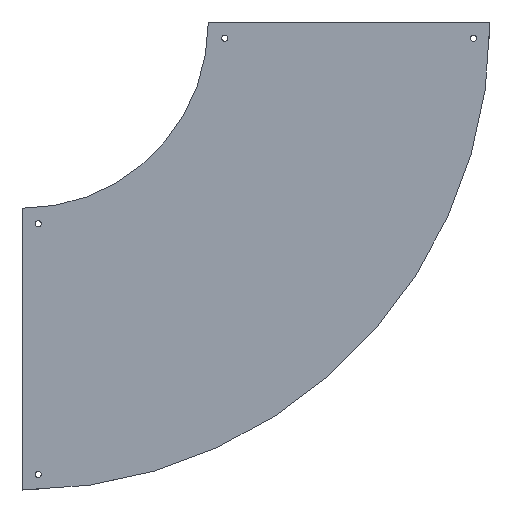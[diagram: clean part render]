
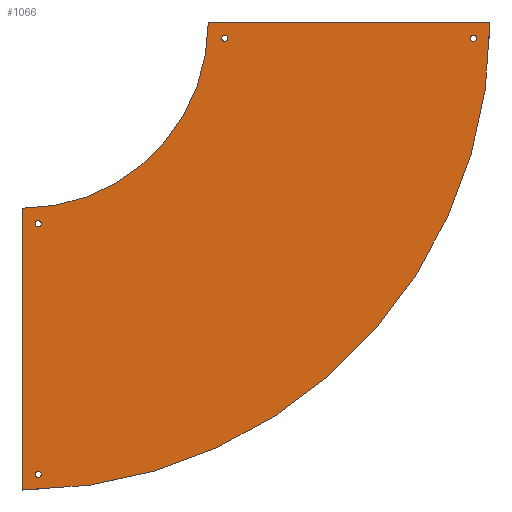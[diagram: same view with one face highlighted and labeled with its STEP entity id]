
A CAD part, top view. The second image highlights one B-rep face of the part: STEP entity #1066.
In plain terms, the highlighted planar face has unit normal (0, 0, 1).
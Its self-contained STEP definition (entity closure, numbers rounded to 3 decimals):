
#49=FACE_BOUND('',#205,.T.);
#50=FACE_BOUND('',#206,.T.);
#51=FACE_BOUND('',#207,.T.);
#52=FACE_BOUND('',#208,.T.);
#63=CIRCLE('',#1156,298.5);
#64=CIRCLE('',#1157,751.5);
#65=CIRCLE('',#1158,5.);
#66=CIRCLE('',#1159,5.);
#67=CIRCLE('',#1160,5.);
#68=CIRCLE('',#1161,5.);
#69=CIRCLE('',#1162,5.);
#70=CIRCLE('',#1163,5.);
#71=CIRCLE('',#1164,5.);
#72=CIRCLE('',#1165,5.);
#134=FACE_OUTER_BOUND('',#204,.T.);
#204=EDGE_LOOP('',(#826,#827,#828,#829,#830,#831,#832,#833));
#205=EDGE_LOOP('',(#834,#835));
#206=EDGE_LOOP('',(#836,#837));
#207=EDGE_LOOP('',(#838,#839));
#208=EDGE_LOOP('',(#840,#841));
#297=LINE('',#1670,#405);
#298=LINE('',#1673,#406);
#306=LINE('',#1708,#414);
#307=LINE('',#1713,#415);
#308=LINE('',#1715,#416);
#309=LINE('',#1717,#417);
#405=VECTOR('',#1333,304.8);
#406=VECTOR('',#1336,304.8);
#414=VECTOR('',#1368,304.8);
#415=VECTOR('',#1373,304.8);
#416=VECTOR('',#1374,304.8);
#417=VECTOR('',#1375,304.8);
#494=VERTEX_POINT('',#1663);
#497=VERTEX_POINT('',#1668);
#498=VERTEX_POINT('',#1672);
#513=VERTEX_POINT('',#1706);
#514=VERTEX_POINT('',#1710);
#515=VERTEX_POINT('',#1712);
#516=VERTEX_POINT('',#1714);
#517=VERTEX_POINT('',#1716);
#518=VERTEX_POINT('',#1719);
#519=VERTEX_POINT('',#1720);
#520=VERTEX_POINT('',#1723);
#521=VERTEX_POINT('',#1724);
#522=VERTEX_POINT('',#1727);
#523=VERTEX_POINT('',#1728);
#524=VERTEX_POINT('',#1731);
#525=VERTEX_POINT('',#1732);
#609=EDGE_CURVE('',#497,#494,#297,.T.);
#610=EDGE_CURVE('',#494,#498,#298,.T.);
#628=EDGE_CURVE('',#513,#497,#306,.T.);
#629=EDGE_CURVE('',#513,#514,#63,.T.);
#630=EDGE_CURVE('',#514,#515,#307,.T.);
#631=EDGE_CURVE('',#515,#516,#308,.T.);
#632=EDGE_CURVE('',#516,#517,#309,.T.);
#633=EDGE_CURVE('',#517,#498,#64,.T.);
#634=EDGE_CURVE('',#518,#519,#65,.T.);
#635=EDGE_CURVE('',#519,#518,#66,.T.);
#636=EDGE_CURVE('',#520,#521,#67,.T.);
#637=EDGE_CURVE('',#521,#520,#68,.T.);
#638=EDGE_CURVE('',#522,#523,#69,.T.);
#639=EDGE_CURVE('',#523,#522,#70,.T.);
#640=EDGE_CURVE('',#524,#525,#71,.T.);
#641=EDGE_CURVE('',#525,#524,#72,.T.);
#826=ORIENTED_EDGE('',*,*,#609,.F.);
#827=ORIENTED_EDGE('',*,*,#628,.F.);
#828=ORIENTED_EDGE('',*,*,#629,.T.);
#829=ORIENTED_EDGE('',*,*,#630,.T.);
#830=ORIENTED_EDGE('',*,*,#631,.T.);
#831=ORIENTED_EDGE('',*,*,#632,.T.);
#832=ORIENTED_EDGE('',*,*,#633,.T.);
#833=ORIENTED_EDGE('',*,*,#610,.F.);
#834=ORIENTED_EDGE('',*,*,#634,.T.);
#835=ORIENTED_EDGE('',*,*,#635,.T.);
#836=ORIENTED_EDGE('',*,*,#636,.T.);
#837=ORIENTED_EDGE('',*,*,#637,.T.);
#838=ORIENTED_EDGE('',*,*,#638,.T.);
#839=ORIENTED_EDGE('',*,*,#639,.T.);
#840=ORIENTED_EDGE('',*,*,#640,.T.);
#841=ORIENTED_EDGE('',*,*,#641,.T.);
#1018=PLANE('',#1155);
#1066=ADVANCED_FACE('',(#134,#49,#50,#51,#52),#1018,.T.);
#1155=AXIS2_PLACEMENT_3D('',#1709,#1369,#1370);
#1156=AXIS2_PLACEMENT_3D('',#1711,#1371,#1372);
#1157=AXIS2_PLACEMENT_3D('',#1718,#1376,#1377);
#1158=AXIS2_PLACEMENT_3D('',#1721,#1378,#1379);
#1159=AXIS2_PLACEMENT_3D('',#1722,#1380,#1381);
#1160=AXIS2_PLACEMENT_3D('',#1725,#1382,#1383);
#1161=AXIS2_PLACEMENT_3D('',#1726,#1384,#1385);
#1162=AXIS2_PLACEMENT_3D('',#1729,#1386,#1387);
#1163=AXIS2_PLACEMENT_3D('',#1730,#1388,#1389);
#1164=AXIS2_PLACEMENT_3D('',#1733,#1390,#1391);
#1165=AXIS2_PLACEMENT_3D('',#1734,#1392,#1393);
#1333=DIRECTION('',(1.,0.,0.));
#1336=DIRECTION('',(0.,-1.,0.));
#1368=DIRECTION('',(0.,1.,0.));
#1369=DIRECTION('center_axis',(0.,0.,1.));
#1370=DIRECTION('ref_axis',(0.,-1.,0.));
#1371=DIRECTION('center_axis',(0.,0.,-1.));
#1372=DIRECTION('ref_axis',(1.,0.,0.));
#1373=DIRECTION('',(-1.,0.,0.));
#1374=DIRECTION('',(0.,-1.,0.));
#1375=DIRECTION('',(1.,0.,0.));
#1376=DIRECTION('center_axis',(0.,0.,1.));
#1377=DIRECTION('ref_axis',(1.,0.,0.));
#1378=DIRECTION('center_axis',(0.,0.,-1.));
#1379=DIRECTION('ref_axis',(1.,0.,0.));
#1380=DIRECTION('center_axis',(0.,0.,-1.));
#1381=DIRECTION('ref_axis',(1.,0.,0.));
#1382=DIRECTION('center_axis',(0.,0.,-1.));
#1383=DIRECTION('ref_axis',(1.,0.,0.));
#1384=DIRECTION('center_axis',(0.,0.,-1.));
#1385=DIRECTION('ref_axis',(1.,0.,0.));
#1386=DIRECTION('center_axis',(0.,0.,-1.));
#1387=DIRECTION('ref_axis',(1.,0.,0.));
#1388=DIRECTION('center_axis',(0.,0.,-1.));
#1389=DIRECTION('ref_axis',(1.,0.,0.));
#1390=DIRECTION('center_axis',(0.,0.,-1.));
#1391=DIRECTION('ref_axis',(1.,0.,0.));
#1392=DIRECTION('center_axis',(0.,0.,-1.));
#1393=DIRECTION('ref_axis',(1.,0.,0.));
#1663=CARTESIAN_POINT('',(226.5,526.,1.5));
#1668=CARTESIAN_POINT('',(-226.5,526.,1.5));
#1670=CARTESIAN_POINT('',(-226.5,526.,1.5));
#1672=CARTESIAN_POINT('',(226.5,525.,1.5));
#1673=CARTESIAN_POINT('',(226.5,526.,1.5));
#1706=CARTESIAN_POINT('',(-226.5,525.,1.5));
#1708=CARTESIAN_POINT('',(-226.5,526.,1.5));
#1709=CARTESIAN_POINT('Origin',(-226.5,526.,1.5));
#1710=CARTESIAN_POINT('',(-525.,226.5,1.5));
#1711=CARTESIAN_POINT('Origin',(-525.,525.,1.5));
#1712=CARTESIAN_POINT('',(-526.,226.5,1.5));
#1713=CARTESIAN_POINT('',(-525.,226.5,1.5));
#1714=CARTESIAN_POINT('',(-526.,-226.5,1.5));
#1715=CARTESIAN_POINT('',(-526.,-226.5,1.5));
#1716=CARTESIAN_POINT('',(-525.,-226.5,1.5));
#1717=CARTESIAN_POINT('',(-525.,-226.5,1.5));
#1718=CARTESIAN_POINT('Origin',(-525.,525.,1.5));
#1719=CARTESIAN_POINT('',(-495.,201.5,1.5));
#1720=CARTESIAN_POINT('',(-505.,201.5,1.5));
#1721=CARTESIAN_POINT('Origin',(-500.,201.5,1.5));
#1722=CARTESIAN_POINT('Origin',(-500.,201.5,1.5));
#1723=CARTESIAN_POINT('',(-495.,-201.5,1.5));
#1724=CARTESIAN_POINT('',(-505.,-201.5,1.5));
#1725=CARTESIAN_POINT('Origin',(-500.,-201.5,1.5));
#1726=CARTESIAN_POINT('Origin',(-500.,-201.5,1.5));
#1727=CARTESIAN_POINT('',(-195.,500.,1.5));
#1728=CARTESIAN_POINT('',(-205.,500.,1.5));
#1729=CARTESIAN_POINT('Origin',(-200.,500.,1.5));
#1730=CARTESIAN_POINT('Origin',(-200.,500.,1.5));
#1731=CARTESIAN_POINT('',(205.,500.,1.5));
#1732=CARTESIAN_POINT('',(195.,500.,1.5));
#1733=CARTESIAN_POINT('Origin',(200.,500.,1.5));
#1734=CARTESIAN_POINT('Origin',(200.,500.,1.5));
